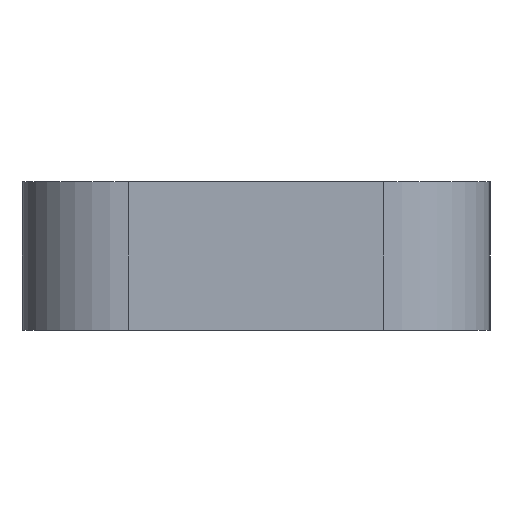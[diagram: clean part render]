
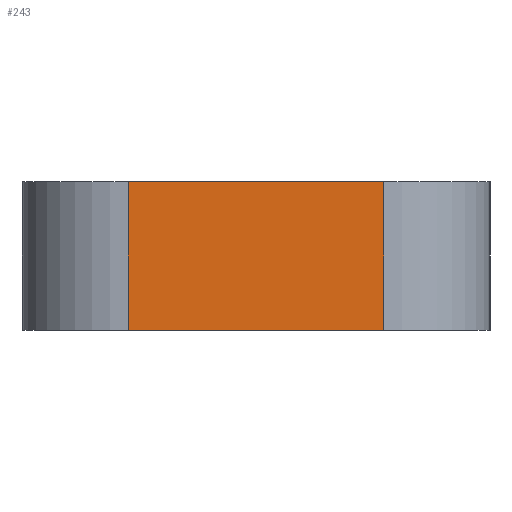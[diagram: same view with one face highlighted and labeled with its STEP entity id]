
A CAD part, left-side view. The second image highlights one B-rep face of the part: STEP entity #243.
In plain terms, the highlighted planar face has unit normal (-1, 0, 0).
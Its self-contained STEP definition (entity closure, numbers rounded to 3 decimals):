
#41=FACE_OUTER_BOUND('',#55,.T.);
#55=EDGE_LOOP('',(#169,#170,#171,#172));
#73=LINE('',#381,#93);
#74=LINE('',#383,#94);
#75=LINE('',#385,#95);
#76=LINE('',#386,#96);
#93=VECTOR('',#303,1.);
#94=VECTOR('',#304,1.);
#95=VECTOR('',#305,1.);
#96=VECTOR('',#306,1.);
#113=VERTEX_POINT('',#379);
#114=VERTEX_POINT('',#380);
#115=VERTEX_POINT('',#382);
#116=VERTEX_POINT('',#384);
#135=EDGE_CURVE('',#113,#114,#73,.T.);
#136=EDGE_CURVE('',#114,#115,#74,.T.);
#137=EDGE_CURVE('',#116,#115,#75,.T.);
#138=EDGE_CURVE('',#113,#116,#76,.T.);
#169=ORIENTED_EDGE('',*,*,#135,.T.);
#170=ORIENTED_EDGE('',*,*,#136,.T.);
#171=ORIENTED_EDGE('',*,*,#137,.F.);
#172=ORIENTED_EDGE('',*,*,#138,.F.);
#237=PLANE('',#271);
#243=ADVANCED_FACE('',(#41),#237,.T.);
#271=AXIS2_PLACEMENT_3D('',#378,#301,#302);
#301=DIRECTION('center_axis',(-1.,0.,0.));
#302=DIRECTION('ref_axis',(0.,1.,0.));
#303=DIRECTION('',(0.,0.,1.));
#304=DIRECTION('',(0.,1.,0.));
#305=DIRECTION('',(0.,0.,1.));
#306=DIRECTION('',(0.,1.,0.));
#378=CARTESIAN_POINT('Origin',(-11.6,16.8,-6.35));
#379=CARTESIAN_POINT('',(-11.6,16.8,-6.35));
#380=CARTESIAN_POINT('',(-11.6,16.8,-4.95));
#381=CARTESIAN_POINT('',(-11.6,16.8,-6.35));
#382=CARTESIAN_POINT('',(-11.6,19.2,-4.95));
#383=CARTESIAN_POINT('',(-11.6,18.,-4.95));
#384=CARTESIAN_POINT('',(-11.6,19.2,-6.35));
#385=CARTESIAN_POINT('',(-11.6,19.2,-6.35));
#386=CARTESIAN_POINT('',(-11.6,18.,-6.35));
